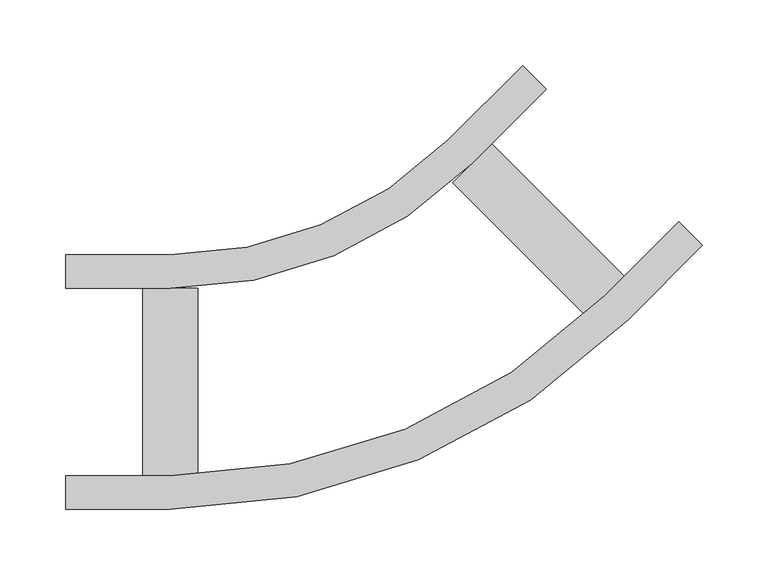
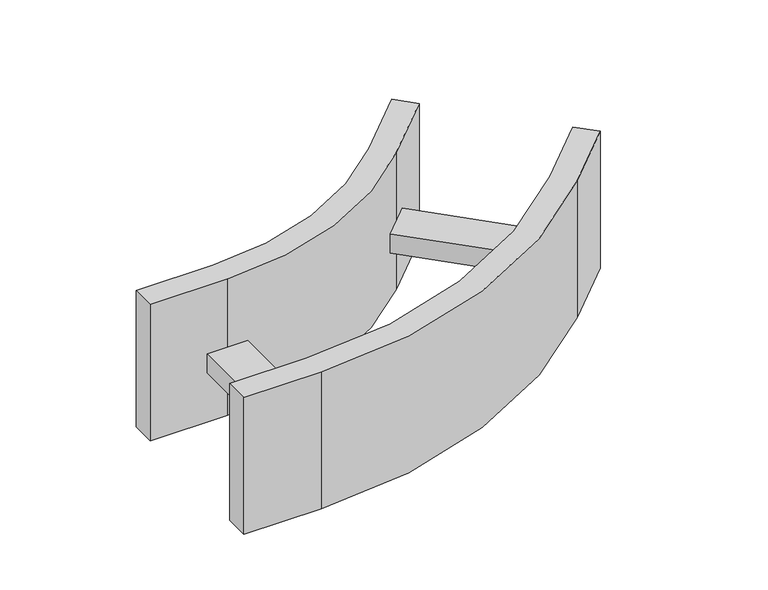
"""IFC4 building model written with IfcOpenShell, lengths in millimetres: cable carrier fitting geometry, Legrand_CableLadder_Swifts_Emerald_FlatBend-13 : Hot Dip Galvanised (after manufacture)."""

from ifc_helpers import new_model, si_unit, point, frame, frame_2d, origin, place, context, project, spatial, polyline, circle_curve, trimmed, segment, composite_curve, outline, extrude, source, transform, mapped, element, save


def cable_carrier_fitting_7aac4970(model_context):
    return source(origin(), model_context, "Body", "SweptSolid", [
        extrude(outline(polyline([(-185.4427843, -71.5), (-185.4427843, 71.5), (-143.4427843, 71.5), (-143.4427843, -71.5), (-185.4427843, -71.5)])), frame((0.0, 0.0, -21.0), z_axis=(0.0, 0.0, 1.0), x_axis=(1.0, 0.0, 0.0)), (0.0, 0.0, 1.0), 21.0),
        extrude(outline(polyline([(151.9875003, 50.8712306), (50.8712306, 151.9875003), (80.5697154, 181.6859851), (181.6859851, 80.5697154), (151.9875003, 50.8712306)])), frame((0.0, 0.0, -21.0), z_axis=(0.0, 0.0, 1.0), x_axis=(1.0, 0.0, 0.0)), (0.0, 0.0, 1.0), 21.0),
        extrude(outline(composite_curve([segment(polyline([(-244.4427843, -97.0), (-244.4427843, -71.5), (-164.4427843, -71.5)]), True, "CONTINUOUS"), segment(trimmed(circle_curve(frame_2d((-164.4427843, 397.0)), 468.5), [point((-164.4427843, -71.5))], [point((166.8367427, 65.720473))], True, "CARTESIAN"), True, "CONTINUOUS"), segment(polyline([(166.8367427, 65.720473), (223.4052852, 122.2890155), (241.4365081, 104.2577926), (184.8679656, 47.6892501)]), True, "CONTINUOUS"), segment(trimmed(circle_curve(frame_2d((-164.4427843, 397.0)), 494.0), [point((184.8679656, 47.6892501))], [point((-164.4427843, -97.0))], False, "CARTESIAN"), True, "CONTINUOUS"), segment(polyline([(-164.4427843, -97.0), (-244.4427843, -97.0)]), True, "CONTINUOUS")], self_intersect=False)), frame((0.0, 0.0, -75.0), z_axis=(0.0, 0.0, 1.0), x_axis=(1.0, 0.0, 0.0)), (0.0, 0.0, 1.0), 150.0),
        extrude(outline(composite_curve([segment(polyline([(-244.4427843, 71.5), (-244.4427843, 97.0), (-164.4427843, 97.0)]), True, "CONTINUOUS"), segment(trimmed(circle_curve(frame_2d((-164.4427843, 397.0)), 300.0), [point((-164.4427843, 97.0))], [point((47.6892501, 184.8679656))], True, "CARTESIAN"), True, "CONTINUOUS"), segment(polyline([(47.6892501, 184.8679656), (104.2577926, 241.4365081), (122.2890155, 223.4052852), (65.720473, 166.8367427)]), True, "CONTINUOUS"), segment(trimmed(circle_curve(frame_2d((-164.4427843, 397.0)), 325.5), [point((65.720473, 166.8367427))], [point((-164.4427843, 71.5))], False, "CARTESIAN"), True, "CONTINUOUS"), segment(polyline([(-164.4427843, 71.5), (-244.4427843, 71.5)]), True, "CONTINUOUS")], self_intersect=False)), frame((0.0, 0.0, -75.0), z_axis=(0.0, 0.0, 1.0), x_axis=(1.0, 0.0, 0.0)), (0.0, 0.0, 1.0), 150.0),
    ])


if __name__ == "__main__":
    model = new_model("IFC4")
    model_context = context("Model", 3, world=origin())
    ifc_project = project(units=[si_unit("LENGTHUNIT", "METRE", prefix="MILLI")], contexts=[model_context])
    site = spatial("IfcSite", under=ifc_project)
    building = spatial("IfcBuilding", under=site)
    placement = place(None, origin())
    cable_carrier_fitting_shape = cable_carrier_fitting_7aac4970(model_context)
    element("IfcCableCarrierFitting", 1, ObjectType="Legrand_CableLadder_Swifts_Emerald_FlatBend-13 : Hot Dip Galvanised (after manufacture)", at=placement, inside=building, context=model_context, shape_type="MappedRepresentation", body=[
        mapped(cable_carrier_fitting_shape, transform((0.0, 0.0, 0.0), x_axis=(1.0, 0.0, 0.0), y_axis=(0.0, 1.0, 0.0), z_axis=(0.0, 0.0, 1.0))),
    ])
    save(model, "model.ifc")
